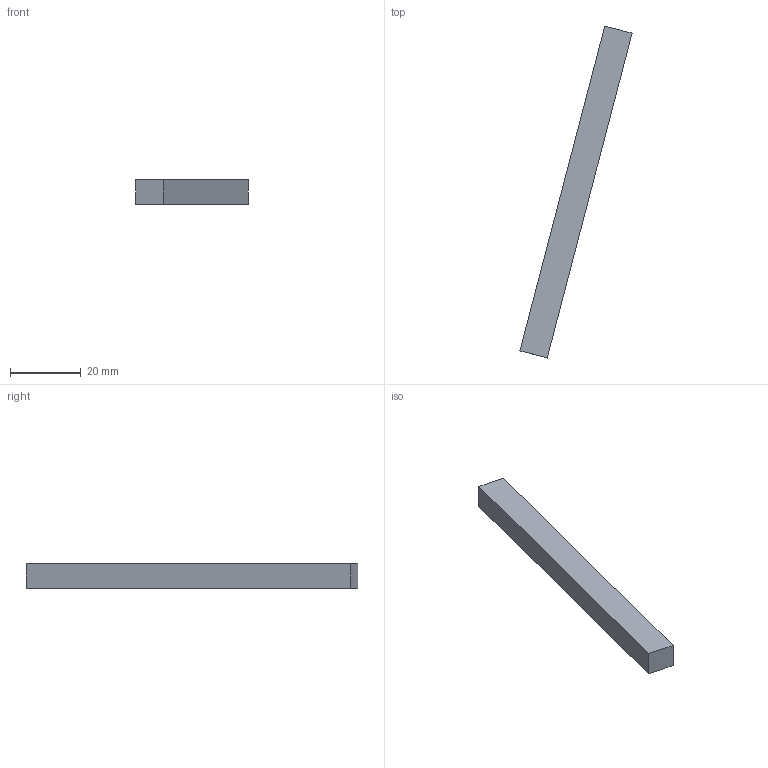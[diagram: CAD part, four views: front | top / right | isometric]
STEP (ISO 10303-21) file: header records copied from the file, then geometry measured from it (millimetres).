
FILE_DESCRIPTION(('Open CASCADE Model'),'2;1');
FILE_NAME('Open CASCADE Shape Model','2026-10-04T02:31:39',('Author'),( 'Open CASCADE'),'Open CASCADE STEP processor 8.0','Open CASCADE 8.0' ,'Unknown');
FILE_SCHEMA(('AUTOMOTIVE_DESIGN { 1 0 10303 214 1 1 1 1 }'));
Length unit declared in the file: millimetre
Products named in the file (1): Open CASCADE STEP translator 8.0 182
Bounding box: 31.74 x 94.02 x 7 mm (x, y, z)
Volume: 5324.4 mm3; surface area: 2964.4 mm2
Topology: 1 solids, 1 shells, 6 faces, 12 edges, 8 vertices
Faces by surface type: plane 6
Entity records: 322 total; most frequent: CARTESIAN_POINT 51, DIRECTION 50, LINE 36, VECTOR 36, ORIENTED_EDGE 24, PCURVE 24, DEFINITIONAL_REPRESENTATION 24, EDGE_CURVE 12
